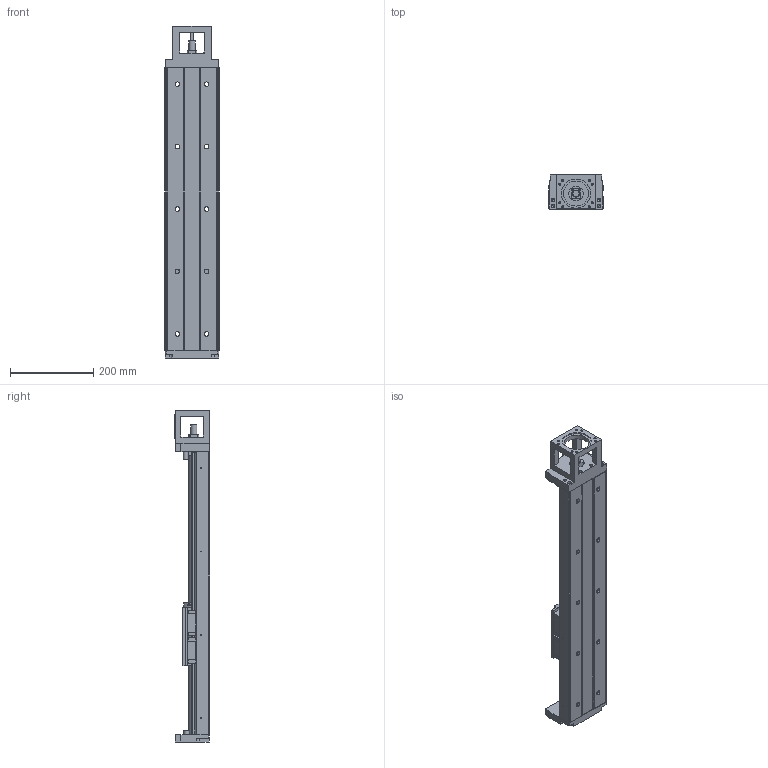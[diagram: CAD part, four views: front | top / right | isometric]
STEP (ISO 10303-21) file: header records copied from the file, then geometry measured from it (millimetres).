
FILE_DESCRIPTION(/* description */ (''),/* implementation_level */ '2;1');
FILE_NAME(/* name */ 'TKK130-680A1F0.stp',/* time_stamp */ '2016-12-22T13:26:04+08:00',/* author */ (''),/* organization */ (''),/* preprocessor_version */ 'ST-DEVELOPER v15',/* originating_system */ 'SIEMENS PLM Software NX 8.5',/* authorisation */ '');
FILE_SCHEMA (('AUTOMOTIVE_DESIGN { 1 0 10303 214 3 1 1 1 }'));
Length unit declared in the file: millimetre
Products named in the file (3): 02; 01; TKK130-680A1F0
Assembly tree (2 placements, depth 2):
  TKK130-680A1F0
    01
    02
Bounding box: 130 x 85 x 798 mm (x, y, z)
Volume: 3284319.1 mm3; surface area: 549213.8 mm2
Topology: 2 solids, 4 shells, 851 faces, 2318 edges, 1514 vertices
Faces by surface type: plane 506, cylinder 228, cone 77, extrusion 33, bspline 6, torus 1
Full cylindrical faces by diameter (mm): 2.1 x8, 2.5 x4, 3.3 x22, 4.5 x16, 5 x23, 6.6 x10, 6.8 x8, 7 x2, 8 x8, 8.5 x4, 9 x8, 11 x14, 12 x4, 15 x1, 16.3 x1, 17 x12, 25 x1, 35 x2, 40 x3, 60.03 x1, 70.03 x1
Entity records: 26716 total; most frequent: CARTESIAN_POINT 6062, DIRECTION 3924, ORIENTED_EDGE 3826, EDGE_CURVE 1913, VERTEX_POINT 1392, AXIS2_PLACEMENT_3D 1343, VECTOR 1238, LINE 1205
